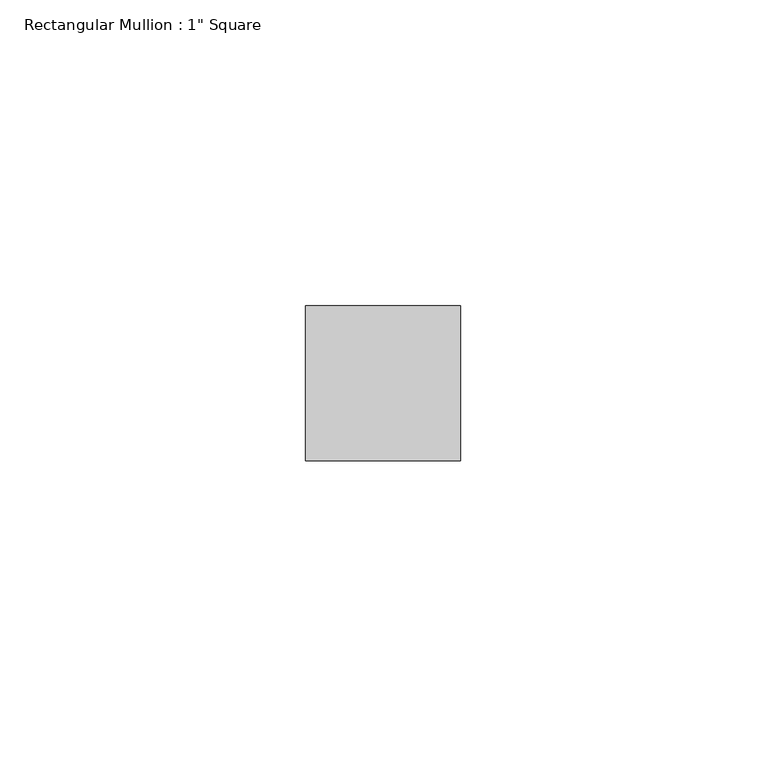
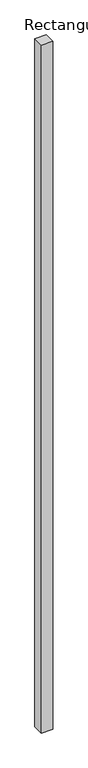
"""IFC4 building model written with IfcOpenShell, lengths in millimetres: member geometry."""

from ifc_helpers import new_model, si_unit, frame, origin, place, context, project, spatial, polyline, outline, extrude, source, transform, mapped, element, save


def member_a2486feb(model_context):
    return source(origin(), model_context, "Body", "SweptSolid", [
        extrude(outline(polyline([(12.7, 12.7), (12.7, -12.7), (-12.7, -12.7), (-12.7, 12.7), (12.7, 12.7)])), frame((0.0, 0.0, -1623.5246457), z_axis=(0.0, 0.0, 1.0), x_axis=(1.0, 0.0, 0.0)), (0.0, 0.0, 1.0), 1623.5246457),
    ])


if __name__ == "__main__":
    model = new_model("IFC4")
    model_context = context("Model", 3, world=origin())
    ifc_project = project(units=[si_unit("LENGTHUNIT", "METRE", prefix="MILLI")], contexts=[model_context])
    site = spatial("IfcSite", under=ifc_project)
    building = spatial("IfcBuilding", under=site)
    placement = place(None, origin())
    member_shape = member_a2486feb(model_context)
    element("IfcMember", 1, ObjectType="Rectangular Mullion : 1\" Square", at=placement, inside=building, context=model_context, shape_type="MappedRepresentation", body=[
        mapped(member_shape, transform((0.0, 0.0, 0.0), x_axis=(1.0, 0.0, 0.0), y_axis=(0.0, 1.0, 0.0), z_axis=(0.0, 0.0, 1.0))),
    ])
    save(model, "model.ifc")
